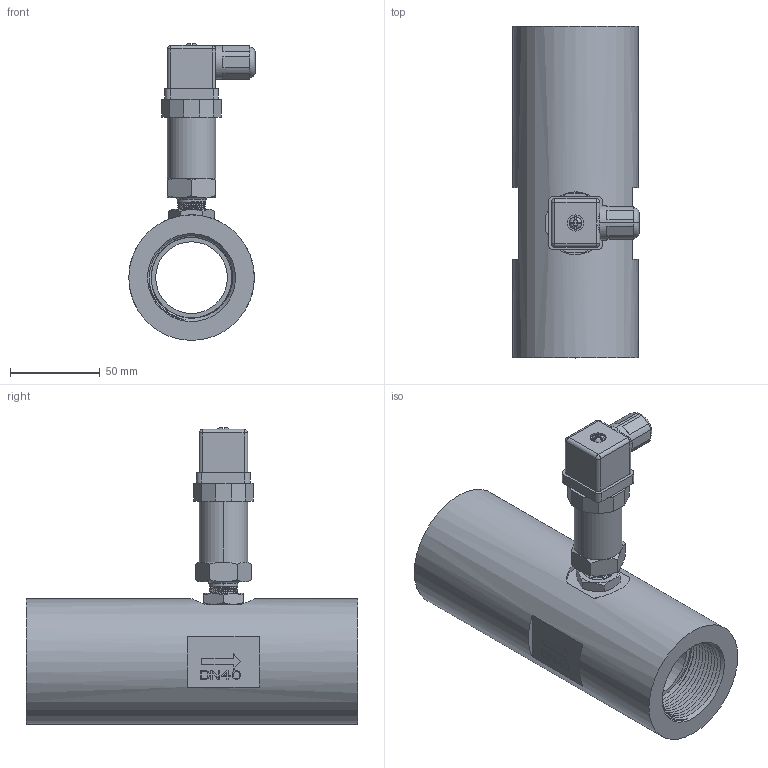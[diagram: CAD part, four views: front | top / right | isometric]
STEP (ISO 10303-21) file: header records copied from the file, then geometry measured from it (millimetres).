
FILE_DESCRIPTION( (''), '2;1');
FILE_NAME( 'QTKB_DN40_female-thread_DIN-plug.step', '2024-10-14T08:19:21+08:00', (''), (''), '', '', '');
FILE_SCHEMA (('AUTOMOTIVE_DESIGN { 1 0 10303 214 3 1 1 1 }'));
Length unit declared in the file: millimetre
Products named in the file (1): QTKB DN40_female-thread_DIN-plug
Bounding box: 70.5 x 185 x 165.5 mm (x, y, z)
Volume: 515674 mm3; surface area: 97623 mm2
Topology: 5 solids, 6 shells, 496 faces, 1330 edges, 871 vertices
Faces by surface type: plane 357, cylinder 57, cone 38, bspline 36, torus 4, sphere 4
Full cylindrical faces by diameter (mm): 15 x1, 40 x1, 45 x1, 70 x1
Entity records: 20252 total; most frequent: CARTESIAN_POINT 8226, ORIENTED_EDGE 2614, DIRECTION 2212, EDGE_CURVE 1307, LINE 936, VECTOR 936, VERTEX_POINT 861, AXIS2_PLACEMENT_3D 638
